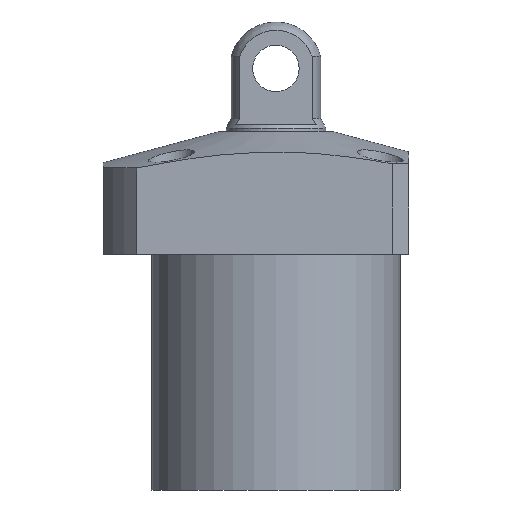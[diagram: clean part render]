
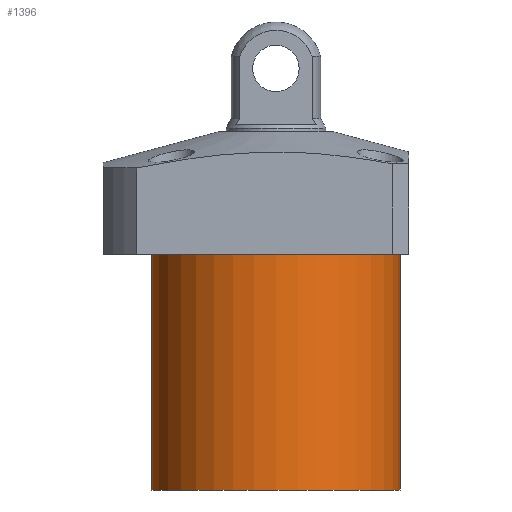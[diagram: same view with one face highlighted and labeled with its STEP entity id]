
A CAD part, front view. The second image highlights one B-rep face of the part: STEP entity #1396.
In plain terms, the highlighted cylindrical face has radius 37.5 mm (diameter 75 mm), a partial arc.
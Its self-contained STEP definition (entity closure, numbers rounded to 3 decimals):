
#96 = CARTESIAN_POINT ( 'NONE',  ( 0., 0., -89.5 ) ) ;
#166 = LINE ( 'NONE', #644, #737 ) ;
#224 = LINE ( 'NONE', #303, #1828 ) ;
#303 = CARTESIAN_POINT ( 'NONE',  ( 37.5, 0., -89.5 ) ) ;
#399 = CARTESIAN_POINT ( 'NONE',  ( 0., 0., -18.5 ) ) ;
#530 = VERTEX_POINT ( 'NONE', #2104 ) ;
#558 = CARTESIAN_POINT ( 'NONE',  ( 37.5, 0., -18.5 ) ) ;
#580 = DIRECTION ( 'NONE',  ( 1., 0., 0. ) ) ;
#626 = CYLINDRICAL_SURFACE ( 'NONE', #1121, 37.5 ) ;
#644 = CARTESIAN_POINT ( 'NONE',  ( -37.5, 0., -89.5 ) ) ;
#737 = VECTOR ( 'NONE', #855, 1000. ) ;
#772 = EDGE_CURVE ( 'NONE', #530, #1718, #224, .T. ) ;
#805 = DIRECTION ( 'NONE',  ( 0., 0., -1. ) ) ;
#815 = DIRECTION ( 'NONE',  ( -1., 0., 0. ) ) ;
#827 = DIRECTION ( 'NONE',  ( 0., 0., 1. ) ) ;
#855 = DIRECTION ( 'NONE',  ( 0., 0., 1. ) ) ;
#934 = CIRCLE ( 'NONE', #1199, 37.5 ) ;
#1121 = AXIS2_PLACEMENT_3D ( 'NONE', #96, #2346, #1235 ) ;
#1156 = CARTESIAN_POINT ( 'NONE',  ( -37.5, 0., -89.5 ) ) ;
#1157 = EDGE_LOOP ( 'NONE', ( #2191, #1245, #2155, #1679 ) ) ;
#1165 = CARTESIAN_POINT ( 'NONE',  ( -37.5, 0., -18.5 ) ) ;
#1199 = AXIS2_PLACEMENT_3D ( 'NONE', #399, #1683, #580 ) ;
#1235 = DIRECTION ( 'NONE',  ( 1., 0., 0. ) ) ;
#1236 = CIRCLE ( 'NONE', #1300, 37.5 ) ;
#1245 = ORIENTED_EDGE ( 'NONE', *, *, #1264, .F. ) ;
#1264 = EDGE_CURVE ( 'NONE', #530, #1781, #1236, .T. ) ;
#1300 = AXIS2_PLACEMENT_3D ( 'NONE', #1926, #805, #815 ) ;
#1357 = EDGE_CURVE ( 'NONE', #1781, #2098, #166, .T. ) ;
#1396 = ADVANCED_FACE ( 'NONE', ( #2175 ), #626, .T. ) ;
#1612 = EDGE_CURVE ( 'NONE', #1718, #2098, #934, .T. ) ;
#1679 = ORIENTED_EDGE ( 'NONE', *, *, #1612, .T. ) ;
#1683 = DIRECTION ( 'NONE',  ( 0., 0., -1. ) ) ;
#1718 = VERTEX_POINT ( 'NONE', #558 ) ;
#1781 = VERTEX_POINT ( 'NONE', #1156 ) ;
#1828 = VECTOR ( 'NONE', #827, 1000. ) ;
#1926 = CARTESIAN_POINT ( 'NONE',  ( 0., 0., -89.5 ) ) ;
#2098 = VERTEX_POINT ( 'NONE', #1165 ) ;
#2104 = CARTESIAN_POINT ( 'NONE',  ( 37.5, 0., -89.5 ) ) ;
#2155 = ORIENTED_EDGE ( 'NONE', *, *, #772, .T. ) ;
#2175 = FACE_OUTER_BOUND ( 'NONE', #1157, .T. ) ;
#2191 = ORIENTED_EDGE ( 'NONE', *, *, #1357, .F. ) ;
#2346 = DIRECTION ( 'NONE',  ( 0., 0., 1. ) ) ;
